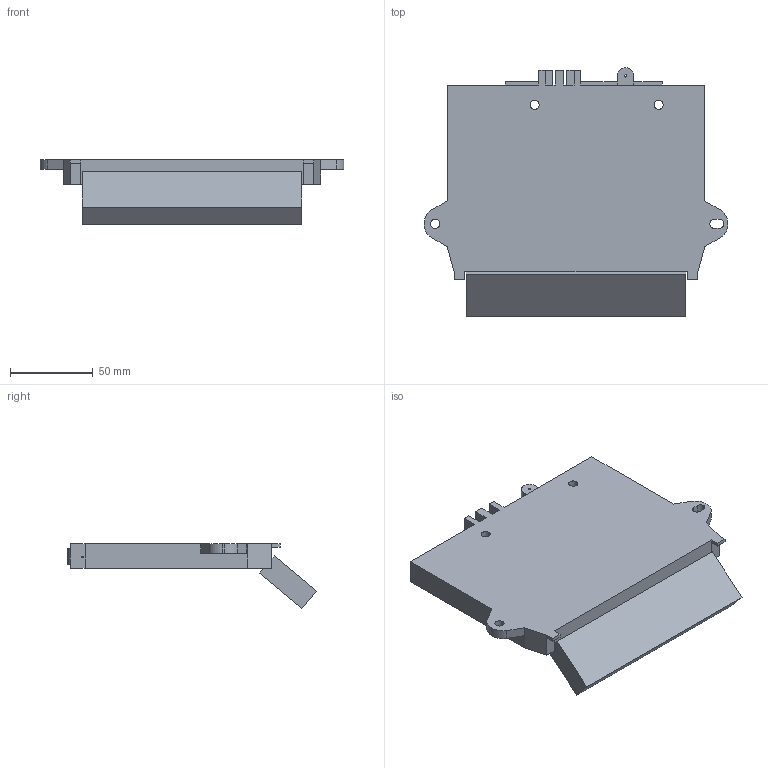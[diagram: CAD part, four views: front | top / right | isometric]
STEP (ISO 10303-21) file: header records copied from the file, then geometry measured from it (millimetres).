
FILE_DESCRIPTION( ( 'STEP AP214' ), ' ' );
FILE_NAME( 'C:/Users/swati/Desktop/New folder/QC1/9155202/9155202.stp', '2016-09-01T11:28:16', ( '' ), ( '' ), ' ', 'PARTsolutions', ' ' );
FILE_SCHEMA( ( 'AUTOMOTIVE_DESIGN { 1 0 10303 214 1 1 1 1 }' ) );
Length unit declared in the file: millimetre
Products named in the file (2): 95 ; _
Assembly tree (1 placements, depth 2):
  95 
    _
Bounding box: 183.6 x 150.45 x 39.07 mm (x, y, z)
Volume: 322345.3 mm3; surface area: 57515.5 mm2
Topology: 1 solids, 1 shells, 77 faces, 225 edges, 150 vertices
Faces by surface type: plane 66, cylinder 11
Full cylindrical faces by diameter (mm): 1.4 x1, 5.5 x3
Entity records: 3175 total; most frequent: CARTESIAN_POINT 450, ORIENTED_EDGE 442, DIRECTION 401, EDGE_CURVE 221, LINE 199, VECTOR 199, VERTEX_POINT 150, AXIS2_PLACEMENT_3D 101
